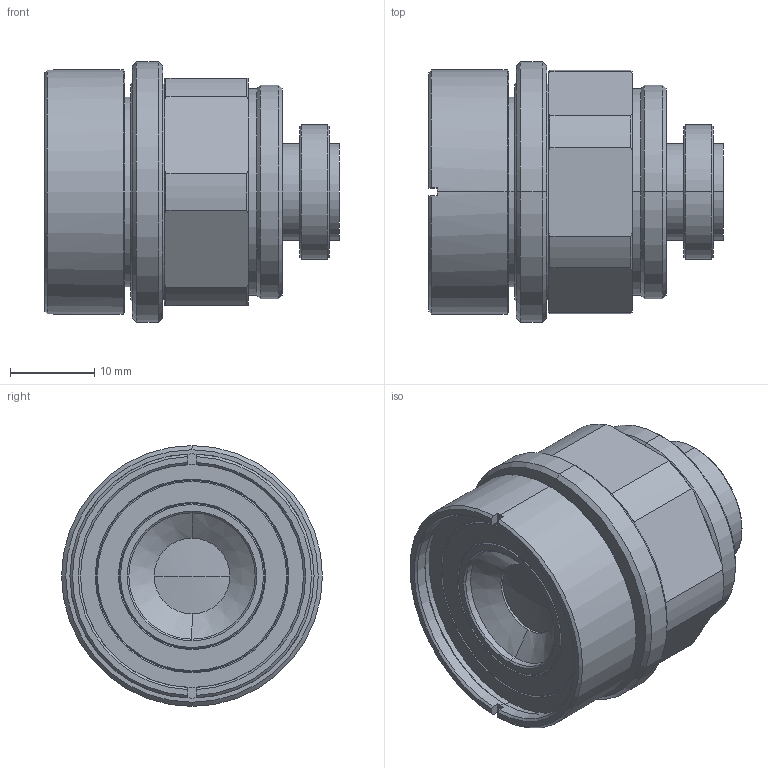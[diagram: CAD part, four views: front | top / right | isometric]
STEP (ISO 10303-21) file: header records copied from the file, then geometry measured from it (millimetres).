
FILE_DESCRIPTION (( 'STEP AP203' ), '1' );
FILE_NAME ('VS-MCA10.STEP', '2017-10-11T05:30:21', ( '' ), ( '' ), 'SwSTEP 2.0', 'SolidWorks 2017', '' );
FILE_SCHEMA (( 'CONFIG_CONTROL_DESIGN' ));
Length unit declared in the file: millimetre
Products named in the file (1): VS-MCA10
Bounding box: 34.99 x 31 x 31 mm (x, y, z)
Volume: 16639.5 mm3; surface area: 6257 mm2
Topology: 1 solids, 1 shells, 127 faces, 290 edges, 181 vertices
Faces by surface type: cone 58, cylinder 36, plane 31, sphere 2
Entity records: 3703 total; most frequent: CARTESIAN_POINT 695, DIRECTION 660, ORIENTED_EDGE 580, EDGE_CURVE 290, AXIS2_PLACEMENT_3D 274, VERTEX_POINT 181, CIRCLE 146, EDGE_LOOP 143
